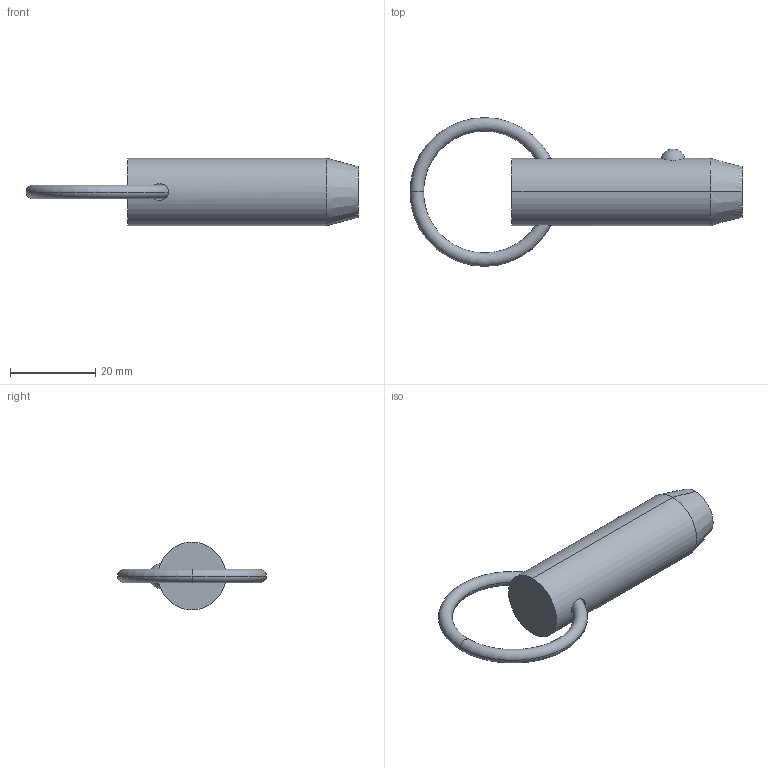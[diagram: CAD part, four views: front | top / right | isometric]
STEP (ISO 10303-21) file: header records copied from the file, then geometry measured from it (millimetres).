
FILE_DESCRIPTION (( 'STEP AP203' ), '1' );
FILE_NAME ('33010.W6210.step', '2024-11-01T10:41:16', ( '' ), ( '' ), 'SwSTEP 2.0', 'SolidWorks 2019', '' );
FILE_SCHEMA (( 'CONFIG_CONTROL_DESIGN' ));
Length unit declared in the file: millimetre
Products named in the file (3): Part2_33010.W6210; 33010.W6210; Part1_33010.W6210
Assembly tree (2 placements, depth 2):
  33010.W6210
    Part1_33010.W6210
    Part2_33010.W6210
Bounding box: 77.91 x 34.93 x 15.88 mm (x, y, z)
Volume: 10976.7 mm3; surface area: 4156.3 mm2
Topology: 2 solids, 2 shells, 16 faces, 31 edges, 18 vertices
Faces by surface type: torus 8, sphere 2, cone 2, cylinder 2, plane 2
Entity records: 889 total; most frequent: CARTESIAN_POINT 246, DIRECTION 88, ORIENTED_EDGE 62, AXIS2_PLACEMENT_3D 42, EDGE_CURVE 31, PERSON_AND_ORGANIZATION 26, CIRCLE 21, LOCAL_TIME 19
